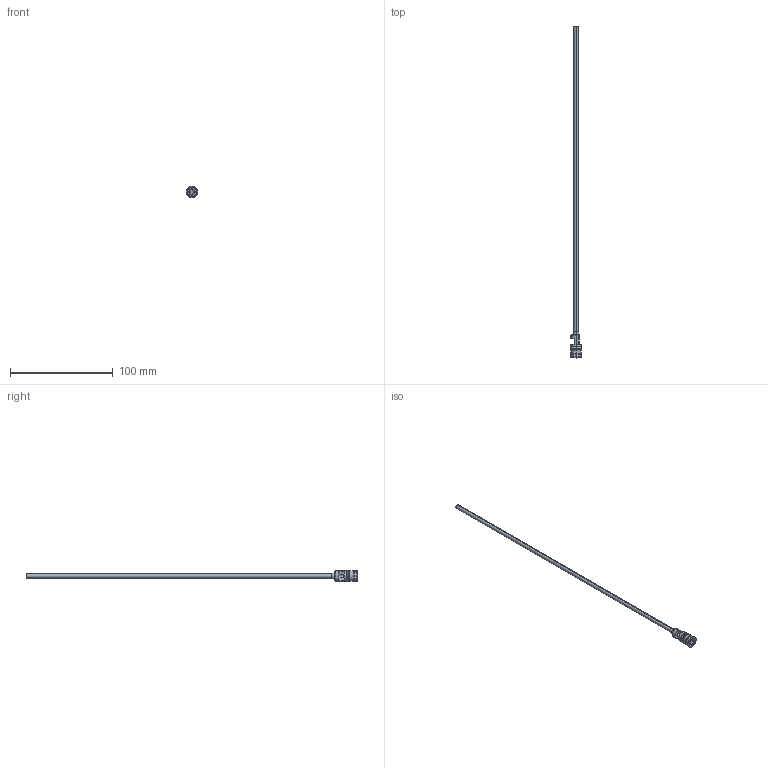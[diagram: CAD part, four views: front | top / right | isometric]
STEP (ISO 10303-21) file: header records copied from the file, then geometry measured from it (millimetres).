
FILE_DESCRIPTION (( 'STEP AP203' ), '1' );
FILE_NAME ('RF-10Fx300-4.STEP', '2015-11-20T08:25:44', ( 'Balzi' ), ( '' ), 'SwSTEP 2.0', 'SolidWorks 2015', '' );
FILE_SCHEMA (( 'CONFIG_CONTROL_DESIGN' ));
Length unit declared in the file: millimetre
Products named in the file (1): RF-10Fx300-4
Bounding box: 11.3 x 322.5 x 11.3 mm (x, y, z)
Volume: 2098.7 mm3; surface area: 8364.9 mm2
Topology: 1 solids, 1 shells, 71 faces, 164 edges, 102 vertices
Faces by surface type: plane 26, cylinder 25, cone 12, torus 8
Entity records: 2114 total; most frequent: DIRECTION 385, CARTESIAN_POINT 357, ORIENTED_EDGE 328, EDGE_CURVE 164, AXIS2_PLACEMENT_3D 154, VERTEX_POINT 102, CIRCLE 82, EDGE_LOOP 80
